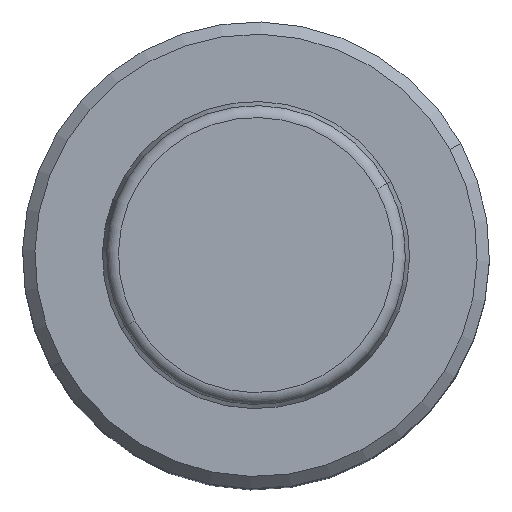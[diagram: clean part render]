
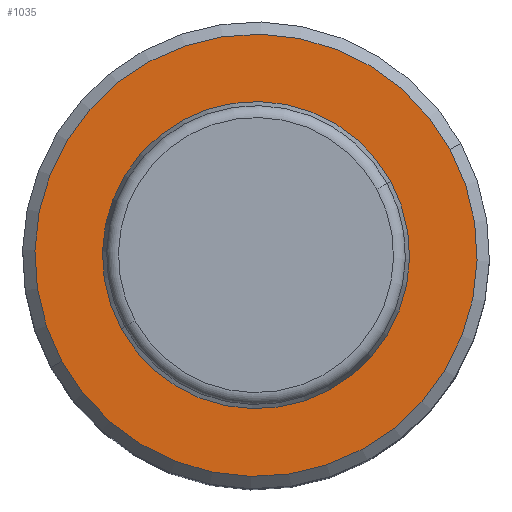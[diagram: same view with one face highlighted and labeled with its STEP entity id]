
A CAD part, top view. The second image highlights one B-rep face of the part: STEP entity #1035.
In plain terms, the highlighted planar face has unit normal (0, 0, 1).
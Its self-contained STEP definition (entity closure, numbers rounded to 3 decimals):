
#1012=CARTESIAN_POINT('Axis2P3D Location',(19.,0.,61.)) ;
#1017=CARTESIAN_POINT('Axis2P3D Location',(0.,0.,61.)) ;
#1021=CARTESIAN_POINT('Vertex',(-15.796,-8.63,61.)) ;
#1023=CARTESIAN_POINT('Vertex',(15.796,8.63,61.)) ;
#1026=CARTESIAN_POINT('Axis2P3D Location',(0.,0.,61.)) ;
#1013=DIRECTION('Axis2P3D Direction',(0.,0.,1.)) ;
#1014=DIRECTION('Axis2P3D XDirection',(1.,0.,0.)) ;
#1018=DIRECTION('Axis2P3D Direction',(0.,0.,1.)) ;
#1027=DIRECTION('Axis2P3D Direction',(0.,0.,1.)) ;
#1015=AXIS2_PLACEMENT_3D('Plane Axis2P3D',#1012,#1013,#1014) ;
#1019=AXIS2_PLACEMENT_3D('Circle Axis2P3D',#1017,#1018,$) ;
#1028=AXIS2_PLACEMENT_3D('Circle Axis2P3D',#1026,#1027,$) ;
#1032=ORIENTED_EDGE('',*,*,#1025,.T.) ;
#1033=ORIENTED_EDGE('',*,*,#1030,.T.) ;
#1035=ADVANCED_FACE('',(#1034),#1016,.T.) ;
#1020=CIRCLE('generated circle',#1019,18.) ;
#1029=CIRCLE('generated circle',#1028,18.) ;
#1025=EDGE_CURVE('',#1022,#1024,#1020,.T.) ;
#1030=EDGE_CURVE('',#1024,#1022,#1029,.T.) ;
#1031=EDGE_LOOP('',(#1032,#1033)) ;
#1034=FACE_OUTER_BOUND('',#1031,.T.) ;
#1016=PLANE('Plane',#1015) ;
#1022=VERTEX_POINT('',#1021) ;
#1024=VERTEX_POINT('',#1023) ;
